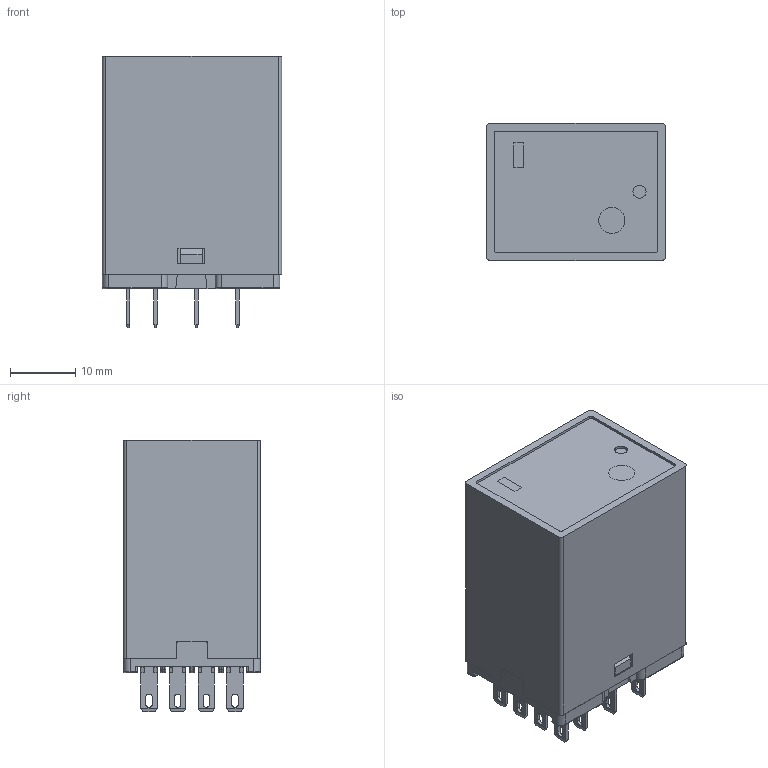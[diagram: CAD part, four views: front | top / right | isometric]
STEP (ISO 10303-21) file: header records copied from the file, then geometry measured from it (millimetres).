
FILE_DESCRIPTION(/* description */ (''),/* implementation_level */ '2;1');
FILE_NAME(/* name */ '18FF-4Z1.stp',/* time_stamp */ '2018-12-27T14:52:49+08:00',/* author */ (''),/* organization */ (''),/* preprocessor_version */ 'ST-DEVELOPER v15',/* originating_system */ 'SIEMENS PLM Software NX 8.5',/* authorisation */ '');
FILE_SCHEMA (('CONFIG_CONTROL_DESIGN'));
Length unit declared in the file: millimetre
Products named in the file (14): 66210830900_a; 77310999900_a; 77190005910_a; 77190005900_a; 80710160000_d; 89140050020_a; 78440082000_b; 66640327000_a; 86340694000_b; 66210883000_a; 61210589000_a; 56701813000_a; 56701815000_a; 45201685000_a
Assembly tree (24 placements, depth 5):
  45201685000_a
    56701815000_a
      56701813000_a
        61210589000_a
          80710160000_d
          77190005900_a  x4
          77190005910_a  x4
          77310999900_a  x6
        66210883000_a
          66210830900_a
        78440082000_b
        89140050020_a
      66640327000_a
    86340694000_b
Bounding box: 27.5 x 21 x 41.7 mm (x, y, z)
Volume: 6858.1 mm3; surface area: 12425.7 mm2
Topology: 22 solids, 22 shells, 2099 faces, 5464 edges, 3506 vertices
Faces by surface type: plane 1397, cylinder 556, extrusion 57, torus 36, sphere 34, bspline 13, cone 6
Full cylindrical faces by diameter (mm): 2 x1, 2.6 x1, 4 x1, 4.5 x1, 6 x1, 6.5 x1
Entity records: 48900 total; most frequent: CARTESIAN_POINT 14608, ORIENTED_EDGE 6890, DIRECTION 6400, EDGE_CURVE 3445, VECTOR 2486, LINE 2429, VERTEX_POINT 2202, AXIS2_PLACEMENT_3D 1957
